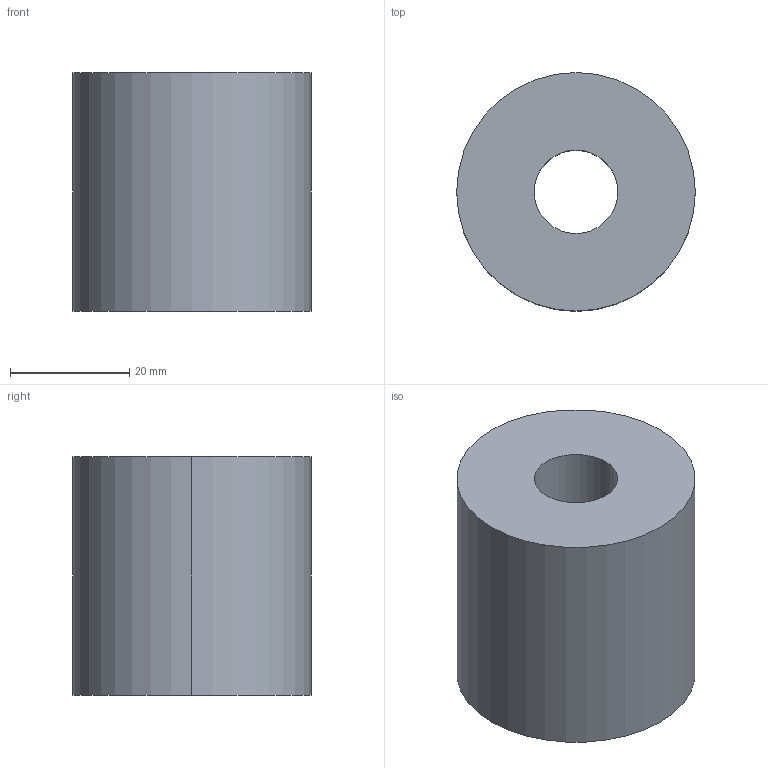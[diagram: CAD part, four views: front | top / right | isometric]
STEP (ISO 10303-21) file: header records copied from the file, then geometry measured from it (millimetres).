
FILE_DESCRIPTION(/* description */ (''),/* implementation_level */ '2;1');
FILE_NAME(/* name */ '3d_pa40-40_04908_r00.stp',/* time_stamp */ '2011-01-10T14:11:58+09:00',/* author */ ('MISUMI'),/* organization */ (''),/* preprocessor_version */ 'ST-DEVELOPER v11',/* originating_system */ 'UGS - NX 5.0',/* authorisation */ '');
FILE_SCHEMA (('CONFIG_CONTROL_DESIGN'));
Length unit declared in the file: millimetre
Products named in the file (1): 3d_pa40-40_04908_r00
Bounding box: 40 x 40 x 40 mm (x, y, z)
Volume: 44108 mm3; surface area: 8991.2 mm2
Topology: 1 solids, 1 shells, 6 faces, 12 edges, 8 vertices
Faces by surface type: cylinder 4, plane 2
Entity records: 254 total; most frequent: DIRECTION 34, CARTESIAN_POINT 27, ORIENTED_EDGE 24, AXIS2_PLACEMENT_3D 15, EDGE_CURVE 12, EDGE_LOOP 8, VERTEX_POINT 8, CIRCLE 8
